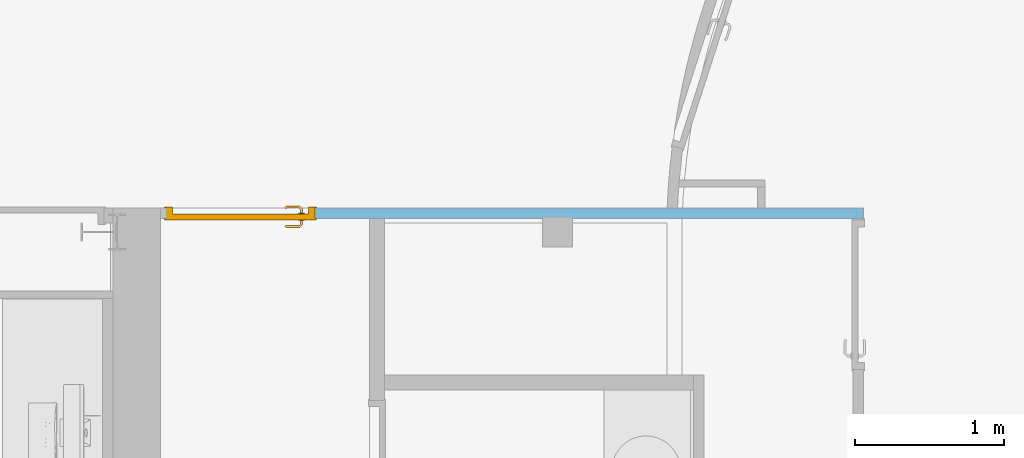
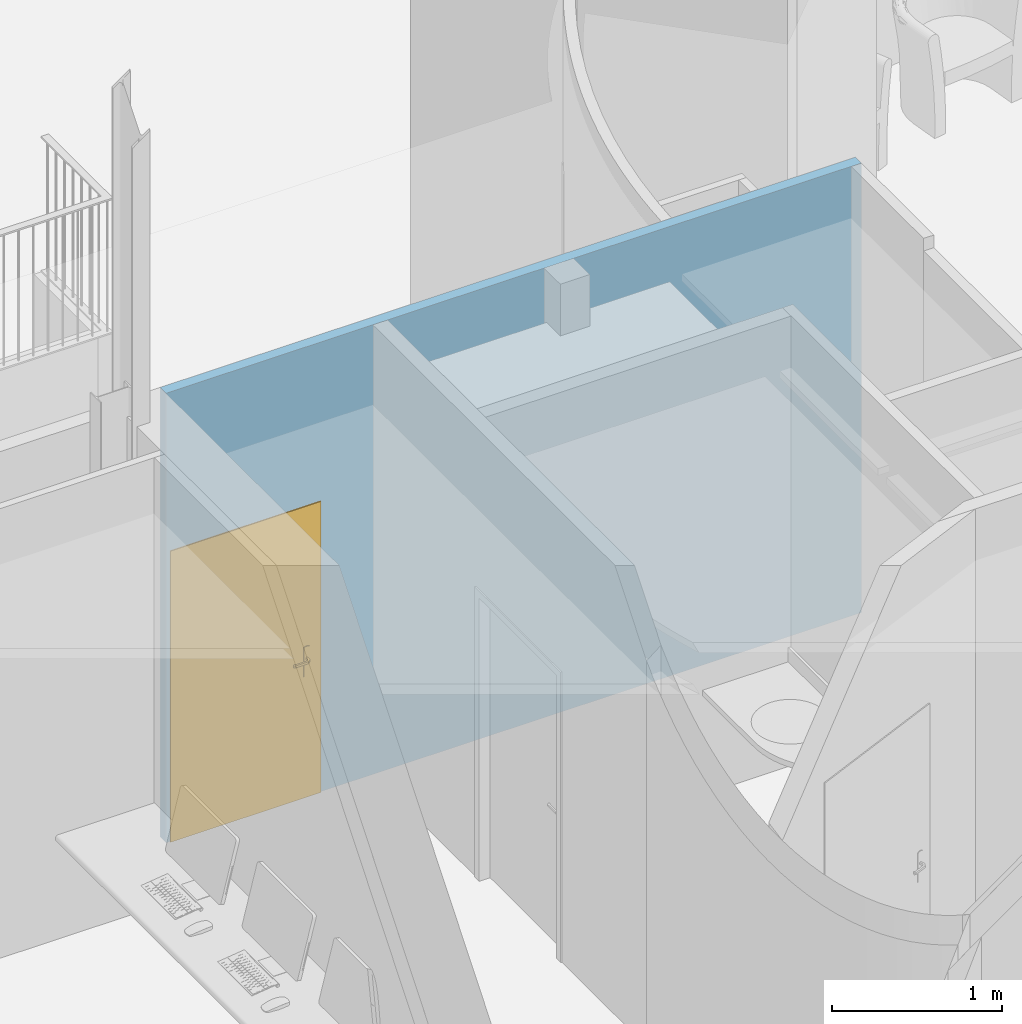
# One storey, part 86 of 137: 1 door, 1 opening, plus 1 element that does not belong to this part.
"""IFC2X3 building model written with IfcOpenShell, lengths in centimetres."""

from ifc_helpers import new_model, entity, si_unit, converted_unit, derived_unit, direction, frame, frame_2d, origin, place, context, subcontext, project, spatial, rectangle, extrude, faceted_brep, source, transform, mapped, material, material_list, layer, layer_set, layer_usage, type_object, type_shapes, element, fill, save


model = new_model("IFC2X3")

# Units and contexts
model_context = context("Model", 3, precision=0.001, world=origin(), true_north=direction((6.12303176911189e-17, 1.0)))
body_context = subcontext(model_context, "Body", "Model", "MODEL_VIEW")
ifc_project = project(units=[si_unit("LENGTHUNIT", "METRE", prefix="CENTI"), si_unit("AREAUNIT", "SQUARE_METRE"), si_unit("VOLUMEUNIT", "CUBIC_METRE"), converted_unit("PLANEANGLEUNIT", "DEGREE", entity("IfcRatioMeasure", 0.0174532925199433), si_unit("PLANEANGLEUNIT", "RADIAN"), dimensions=[0, 0, 0, 0, 0, 0, 0]), si_unit("MASSUNIT", "GRAM", prefix="KILO"), si_unit("TIMEUNIT", "SECOND"), si_unit("FREQUENCYUNIT", "HERTZ"), si_unit("THERMODYNAMICTEMPERATUREUNIT", "DEGREE_CELSIUS"), derived_unit("THERMALTRANSMITTANCEUNIT", [(si_unit("MASSUNIT", "GRAM", prefix="KILO"), 1), (si_unit("THERMODYNAMICTEMPERATUREUNIT", "KELVIN"), -1), (si_unit("TIMEUNIT", "SECOND"), -3)]), derived_unit("VOLUMETRICFLOWRATEUNIT", [(si_unit("LENGTHUNIT", "METRE"), 3), (si_unit("TIMEUNIT", "SECOND"), -1)]), si_unit("ELECTRICCURRENTUNIT", "AMPERE"), si_unit("ELECTRICVOLTAGEUNIT", "VOLT"), si_unit("POWERUNIT", "WATT"), si_unit("FORCEUNIT", "NEWTON", prefix="KILO"), si_unit("ILLUMINANCEUNIT", "LUX"), si_unit("LUMINOUSFLUXUNIT", "LUMEN"), si_unit("LUMINOUSINTENSITYUNIT", "CANDELA"), derived_unit("USERDEFINED", [(si_unit("MASSUNIT", "GRAM", prefix="KILO"), -1), (si_unit("LENGTHUNIT", "METRE"), -2), (si_unit("TIMEUNIT", "SECOND"), 3), (si_unit("LUMINOUSFLUXUNIT", "LUMEN"), 1)]), derived_unit("LINEARVELOCITYUNIT", [(si_unit("LENGTHUNIT", "METRE"), 1), (si_unit("TIMEUNIT", "SECOND"), -1)]), si_unit("PRESSUREUNIT", "PASCAL"), derived_unit("USERDEFINED", [(si_unit("LENGTHUNIT", "METRE"), -2), (si_unit("MASSUNIT", "GRAM", prefix="KILO"), 1), (si_unit("TIMEUNIT", "SECOND"), -2)])], contexts=[model_context])

# Site, building, storey
site_placement = place(None, frame((8.62739174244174, -249.285249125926, 0.0)))
site = spatial("IfcSite", under=ifc_project, at=site_placement, Name="Default", CompositionType="ELEMENT")
building_placement = place(site_placement, origin())
building = spatial("IfcBuilding", under=site, at=building_placement, CompositionType="ELEMENT")
storey_placement = place(building_placement, origin())
storey = spatial("IfcBuildingStorey", under=building, at=storey_placement, Name="RDC", CompositionType="ELEMENT", Elevation=-8.82465566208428e-11)

# Wall, opening, door
ifc_material_1 = material(Name="Plâtre EXISTANT")
ifc_layer = layer(ifc_material_1, 7.0)
ifc_layer_set = layer_set([ifc_layer], Name="Mur de base:PLA EXISTANT 7")
ifc_layer_usage = layer_usage(ifc_layer_set, "AXIS2", "NEGATIVE", 3.5)
wall_type = type_object("IfcWallType", Name="Mur de base:PLA EXISTANT 7", PredefinedType="STANDARD", material=ifc_layer_set)
wall_placement = place(storey_placement, frame((2194.90482780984, 774.499999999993, 0.0)))
wall = element("IfcWallStandardCase", 1, at=wall_placement, inside=storey, type_object=wall_type, material=ifc_layer_usage, Name="Mur de base:PLA EXISTANT 7", ObjectType="Mur de base:PLA EXISTANT 7", context=body_context, shape_type="SweptSolid", body=[
    extrude(rectangle(XDim=470.999999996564, YDim=6.99999999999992, at=frame_2d((235.499999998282, 0.0), x_axis=(-1.0, 0.0))), origin(), (0.0, 0.0, 1.0), 322.000000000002),
])
opening_placement = place(wall_placement, frame((103.499999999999, 3.49999999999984, 0.0)))
opening = element("IfcOpeningElement", 2, at=opening_placement, cuts=wall, Name="Simple(R)_bois_mu:93 x 204 cm:1", ObjectType="Opening", context=body_context, shape_type="SweptSolid", body=[
    extrude(rectangle(XDim=207.499999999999, YDim=99.9999999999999, at=frame_2d((103.749999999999, 50.0), x_axis=(1.0, 0.0))), frame((0.0, 0.0, 0.0), z_axis=(0.0, -1.0, 0.0), x_axis=(0.0, 0.0, 1.0)), (0.0, 0.0, 1.0), 7.0),
])
ifc_material_2 = material(Name="Porte - Poignée")
ifc_material_3 = material(Name="Porte - Cadre")
ifc_material_4 = material(Name="Porte - Panneau")
ifc_material_list_1 = material_list([ifc_material_2, ifc_material_3, ifc_material_4])
ifc_material_list_2 = material_list([ifc_material_2, ifc_material_3, ifc_material_4])
door_style = type_object("IfcDoorStyle", Name="93 x 204 cm", ConstructionType="NOTDEFINED", OperationType="SINGLE_SWING_LEFT", ParameterTakesPrecedence=False, Sizeable=False, material=ifc_material_list_2)
shared_shape = source(origin(), body_context, "Body", "Brep", [
    faceted_brep([(92.2025298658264, 3.69999999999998, 100.778044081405), (91.7974701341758, 3.69999999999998, 100.778044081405), (91.3999999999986, 3.69999999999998, 100.699999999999), (91.4000000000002, 3.69999999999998, 99.3000000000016), (91.7974701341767, 3.69999999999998, 99.2219559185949), (92.2025298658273, 3.69999999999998, 99.2219559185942), (92.6000000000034, 3.69999999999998, 99.2999999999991), (92.600000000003, 3.69999999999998, 100.699999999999), (91.3999999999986, 5.94852045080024, 100.699999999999), (91.3999999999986, 5.94852045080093, 99.3000000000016), (91.7974701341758, 6.1131579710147, 100.778044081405), (92.2025298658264, 6.2809392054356, 100.778044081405), (90.5838906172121, 7.89957845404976, 100.778044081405), (90.4161093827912, 7.49451872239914, 100.778044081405), (82.0793122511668, 7.49451872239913, 100.778044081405), (81.911531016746, 7.89957845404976, 100.778044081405), (81.1451046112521, 7.13315204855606, 100.778044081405), (81.4315250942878, 6.84673156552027, 100.778044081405), (92.600000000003, 6.44557672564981, 100.699999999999), (92.6000000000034, 6.44557672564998, 99.2999999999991), (92.2025298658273, 6.28093920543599, 99.2219559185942), (91.7974701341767, 6.11315797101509, 99.2219559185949), (90.4161093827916, 7.49451872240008, 99.2219559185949), (90.5838906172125, 7.8995784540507, 99.2219559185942), (81.9115310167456, 7.8995784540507, 99.2219559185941), (82.0793122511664, 7.49451872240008, 99.2219559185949), (81.4315250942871, 6.84673156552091, 99.2219559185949), (81.1451046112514, 7.13315204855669, 99.2219559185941), (90.2514718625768, 7.09704858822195, 100.699999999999), (90.2514718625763, 7.09704858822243, 99.3000000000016), (90.7485281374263, 8.29704858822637, 100.699999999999), (90.7485281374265, 8.29704858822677, 99.2999999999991), (86.247710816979, 7.09704858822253, 100.699999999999), (82.2439497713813, 7.09704858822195, 100.699999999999), (82.2439497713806, 7.09704858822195, 99.3000000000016), (86.247710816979, 7.09704858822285, 99.3000000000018), (86.2477108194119, 7.71249275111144, 100.787811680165), (85.7399422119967, 8.29704858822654, 100.699999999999), (81.7468934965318, 8.29704858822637, 100.699999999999), (86.7554791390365, 8.29704858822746, 99.2999999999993), (81.7468934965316, 8.29704858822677, 99.2999999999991), (86.2477107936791, 7.71249274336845, 99.2121883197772), (80.8640507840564, 7.41420587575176, 100.699999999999), (80.8640507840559, 7.41420587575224, 99.2999999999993), (81.7125789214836, 6.5656777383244, 99.3000000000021), (81.7125789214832, 6.56567773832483, 100.699999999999)], [[[0, 1, 2, 3, 4, 5, 6, 7]], [[8, 9, 3, 2]], [[1, 10, 8, 2]], [[1, 0, 11, 12, 13, 10]], [[14, 15, 16, 17]], [[7, 18, 11, 0]], [[18, 7, 6, 19]], [[6, 5, 20, 19]], [[5, 4, 21, 22, 23, 20]], [[24, 25, 26, 27]], [[4, 3, 9, 21]], [[28, 29, 9, 8]], [[8, 10, 13, 28]], [[18, 30, 12, 11]], [[31, 30, 18, 19]], [[19, 20, 23, 31]], [[21, 9, 29, 22]], [[29, 28, 32, 33, 34, 35]], [[36, 32, 13]], [[37, 38, 15]], [[37, 12, 30]], [[36, 12, 37]], [[14, 32, 36]], [[36, 15, 14]], [[28, 13, 32]], [[32, 14, 33]], [[12, 36, 13]], [[15, 36, 37]], [[30, 31, 39, 40, 38, 37]], [[23, 41, 39]], [[24, 39, 41]], [[39, 31, 23]], [[39, 24, 40]], [[22, 35, 41]], [[41, 23, 22]], [[41, 35, 25]], [[35, 22, 29]], [[34, 25, 35]], [[24, 41, 25]], [[17, 16, 42, 43, 27, 26, 44, 45]], [[45, 44, 34, 33]], [[33, 14, 17, 45]], [[15, 38, 42, 16]], [[43, 42, 38, 40]], [[24, 27, 43, 40]], [[34, 44, 26, 25]]]),
    faceted_brep([(91.7974701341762, -1.30000000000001, 100.778044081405), (92.2025298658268, -1.30000000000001, 100.778044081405), (92.6000000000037, -1.30000000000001, 100.699999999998), (92.6000000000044, -1.30000000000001, 99.2999999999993), (92.2025298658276, -1.30000000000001, 99.2219559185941), (91.797470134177, -1.30000000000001, 99.2219559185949), (91.3999999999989, -1.30000000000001, 99.3000000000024), (91.3999999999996, -1.30000000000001, 100.699999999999), (92.2025298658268, -3.90045754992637, 100.778044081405), (92.6000000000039, -4.06509507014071, 100.699999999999), (91.7974701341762, -3.73267631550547, 100.778044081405), (90.4298602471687, -5.10028620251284, 100.778044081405), (90.5976414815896, -5.50534593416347, 100.778044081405), (81.9142453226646, -5.50534593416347, 100.778044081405), (82.0820265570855, -5.10028620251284, 100.778044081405), (81.4342394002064, -4.4524990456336, 100.778044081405), (81.1478189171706, -4.73891952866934, 100.778044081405), (91.3999999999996, -3.56803879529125, 100.699999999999), (91.3999999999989, -3.56803879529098, 99.3000000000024), (91.797470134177, -3.7326763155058, 99.2219559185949), (92.2025298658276, -3.9004575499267, 99.2219559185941), (90.5976414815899, -5.50534593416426, 99.2219559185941), (90.429860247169, -5.10028620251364, 99.2219559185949), (82.0820265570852, -5.10028620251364, 99.2219559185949), (81.9142453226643, -5.50534593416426, 99.2219559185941), (81.14781891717, -4.73891952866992, 99.2219559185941), (81.4342394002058, -4.45249904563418, 99.2219559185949), (92.6000000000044, -4.06509507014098, 99.2999999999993), (90.762279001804, -5.90281606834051, 100.699999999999), (90.2652227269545, -4.70281606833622, 100.699999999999), (90.2652227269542, -4.70281606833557, 99.3000000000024), (90.7622790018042, -5.90281606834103, 99.2999999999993), (86.2559433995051, -5.31828027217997, 100.787811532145), (86.769230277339, -5.90281606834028, 100.699999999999), (81.7496078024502, -5.90281606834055, 100.699999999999), (86.255943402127, -4.70281606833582, 100.699999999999), (82.2466640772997, -4.70281606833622, 100.699999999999), (86.2559436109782, -4.70281606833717, 99.3000000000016), (82.2466640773, -4.70281606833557, 99.3000000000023), (86.2559434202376, -5.31828027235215, 99.2121884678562), (85.7426572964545, -5.90281606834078, 99.2999999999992), (81.74960780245, -5.90281606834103, 99.2999999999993), (81.7152932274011, -4.17144521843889, 99.3000000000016), (80.8667650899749, -5.01997335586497, 99.2999999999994), (80.8667650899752, -5.01997335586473, 100.699999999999), (81.7152932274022, -4.17144521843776, 100.699999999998)], [[[0, 1, 2, 3, 4, 5, 6, 7]], [[2, 1, 8, 9]], [[1, 0, 10, 11, 12, 8]], [[13, 14, 15, 16]], [[0, 7, 17, 10]], [[18, 17, 7, 6]], [[5, 19, 18, 6]], [[5, 4, 20, 21, 22, 19]], [[23, 24, 25, 26]], [[3, 27, 20, 4]], [[9, 27, 3, 2]], [[9, 8, 12, 28]], [[10, 17, 29, 11]], [[30, 29, 17, 18]], [[18, 19, 22, 30]], [[20, 27, 31, 21]], [[28, 31, 27, 9]], [[12, 32, 33]], [[13, 33, 32]], [[33, 28, 12]], [[33, 13, 34]], [[11, 35, 32]], [[32, 12, 11]], [[32, 35, 14]], [[35, 11, 29]], [[36, 14, 35]], [[13, 32, 14]], [[29, 30, 37, 38, 36, 35]], [[39, 37, 22]], [[40, 41, 24]], [[40, 21, 31]], [[39, 21, 40]], [[23, 37, 39]], [[39, 24, 23]], [[30, 22, 37]], [[37, 23, 38]], [[21, 39, 22]], [[24, 39, 40]], [[31, 28, 33, 34, 41, 40]], [[42, 26, 25, 43, 44, 16, 15, 45]], [[13, 16, 44, 34]], [[36, 45, 15, 14]], [[42, 45, 36, 38]], [[38, 23, 26, 42]], [[24, 41, 43, 25]], [[44, 43, 41, 34]]]),
    faceted_brep([(92.0, 3.19999999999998, 86.4641016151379), (93.0352761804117, 3.19999999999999, 86.6003983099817), (94.0, 3.19999999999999, 87.0), (94.0, 3.19999999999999, 108.0), (93.0352761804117, 3.19999999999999, 108.399601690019), (92.0, 3.19999999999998, 108.535898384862), (90.9647238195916, 3.19999999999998, 108.399601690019), (90.0, 3.19999999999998, 108.0), (90.0, 3.19999999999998, 87.0), (90.9647238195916, 3.19999999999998, 86.6003983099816), (92.0, 3.69999999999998, 108.535898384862), (93.0352761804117, 3.69999999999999, 108.399601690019), (94.0, 3.69999999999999, 108.0), (94.0, 3.69999999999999, 87.0), (93.0352761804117, 3.69999999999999, 86.6003983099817), (92.0, 3.69999999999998, 86.4641016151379), (90.9647238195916, 3.69999999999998, 86.6003983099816), (90.0, 3.69999999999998, 87.0), (90.0, 3.69999999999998, 108.0), (90.9647238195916, 3.69999999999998, 108.399601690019)], [[[0, 1, 2, 3, 4, 5, 6, 7, 8, 9]], [[10, 11, 12, 13, 14, 15, 16, 17, 18, 19]], [[6, 19, 18, 7]], [[5, 10, 19, 6]], [[4, 11, 10, 5]], [[4, 3, 12, 11]], [[12, 3, 2, 13]], [[1, 14, 13, 2]], [[0, 15, 14, 1]], [[9, 16, 15, 0]], [[9, 8, 17, 16]], [[17, 8, 7, 18]]]),
    faceted_brep([(92.0, -1.30000000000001, 86.4641016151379), (93.0352761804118, -1.30000000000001, 86.6003983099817), (94.0, -1.30000000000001, 87.0), (94.0, -1.30000000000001, 108.0), (93.0352761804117, -1.30000000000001, 108.399601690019), (92.0, -1.30000000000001, 108.535898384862), (90.9647238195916, -1.30000000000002, 108.399601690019), (90.0, -1.30000000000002, 108.0), (90.0, -1.30000000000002, 87.0), (90.9647238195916, -1.30000000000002, 86.6003983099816), (94.0, -0.800000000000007, 108.0), (94.0, -0.800000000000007, 87.0), (93.0352761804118, -0.80000000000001, 86.6003983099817), (92.0, -0.800000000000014, 86.4641016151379), (90.9647238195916, -0.800000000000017, 86.6003983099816), (90.0, -0.800000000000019, 87.0), (90.0, -0.800000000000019, 108.0), (90.9647238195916, -0.800000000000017, 108.399601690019), (92.0, -0.800000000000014, 108.535898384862), (93.0352761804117, -0.80000000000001, 108.399601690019)], [[[0, 1, 2, 3, 4, 5, 6, 7, 8, 9]], [[10, 11, 12, 13, 14, 15, 16, 17, 18, 19]], [[1, 12, 11, 2]], [[0, 13, 12, 1]], [[9, 14, 13, 0]], [[9, 8, 15, 14]], [[15, 8, 7, 16]], [[6, 17, 16, 7]], [[5, 18, 17, 6]], [[4, 19, 18, 5]], [[4, 3, 10, 19]], [[10, 3, 2, 11]]]),
    faceted_brep([(101.0, 0.0, 0.0), (102.0, 0.0, 0.0), (102.0, -0.799999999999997, 0.0), (97.5000000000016, -0.799999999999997, 0.0), (97.5000000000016, 3.2, 0.0), (96.5000000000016, 3.2, 0.0), (96.5000000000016, 7.80000000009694, 0.0), (102.0, 7.80000000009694, 0.0), (102.0, 7.0, 0.0), (101.0, 7.0, 0.0), (101.0, 7.0, 207.499999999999), (101.0, 0.0, 207.499999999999), (102.0, 7.0, 208.499999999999), (0.0, 7.0, 208.499999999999), (0.0, 7.0, 0.0), (1.0, 7.0, 0.0), (1.0, 7.0, 207.499999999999), (102.0, 7.80000000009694, 208.499999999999), (96.5000000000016, 7.80000000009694, 203.0), (5.50000000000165, 7.80000000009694, 203.0), (5.50000000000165, 7.80000000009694, 0.0), (0.0, 7.80000000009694, 0.0), (0.0, 7.80000000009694, 208.499999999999), (96.5000000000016, 3.2, 203.0), (97.5000000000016, 3.2, 204.0), (4.50000000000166, 3.2, 204.0), (4.50000000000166, 3.2, 0.0), (5.50000000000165, 3.2, 0.0), (5.50000000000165, 3.2, 203.0), (97.5000000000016, -0.799999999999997, 204.0), (102.0, -0.799999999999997, 208.499999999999), (0.0, -0.799999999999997, 208.499999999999), (0.0, -0.799999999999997, 0.0), (4.50000000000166, -0.799999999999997, 0.0), (4.50000000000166, -0.799999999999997, 204.0), (102.0, 0.0, 208.499999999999), (1.0, 0.0, 207.499999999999), (1.0, 0.0, 0.0), (0.0, 0.0, 0.0), (0.0, 0.0, 208.499999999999)], [[[0, 1, 2, 3, 4, 5, 6, 7, 8, 9]], [[9, 10, 11, 0]], [[8, 12, 13, 14, 15, 16, 10, 9]], [[7, 17, 12, 8]], [[6, 18, 19, 20, 21, 22, 17, 7]], [[5, 23, 18, 6]], [[4, 24, 25, 26, 27, 28, 23, 5]], [[3, 29, 24, 4]], [[2, 30, 31, 32, 33, 34, 29, 3]], [[1, 35, 30, 2]], [[0, 11, 36, 37, 38, 39, 35, 1]], [[16, 15, 37, 36]], [[37, 15, 14, 21, 20, 27, 26, 33, 32, 38]], [[22, 21, 14, 13]], [[28, 27, 20, 19]], [[34, 33, 26, 25]], [[39, 38, 32, 31]], [[10, 16, 36, 11]], [[17, 22, 13, 12]], [[23, 28, 19, 18]], [[29, 34, 25, 24]], [[35, 39, 31, 30]]]),
    faceted_brep([(97.5000000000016, -0.799999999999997, 204.0), (4.50000000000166, -0.799999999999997, 204.0), (4.50000000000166, -0.799999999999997, 0.0), (97.5000000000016, -0.799999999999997, 0.0), (97.5000000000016, 3.2, 204.0), (97.5000000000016, 3.2, 0.0), (4.50000000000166, 3.2, 0.0), (4.50000000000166, 3.2, 204.0)], [[[0, 1, 2, 3]], [[4, 5, 6, 7]], [[3, 5, 4, 0]], [[2, 6, 5, 3]], [[1, 7, 6, 2]], [[0, 4, 7, 1]]]),
])
type_shapes(door_style, [shared_shape])
door_placement = place(opening_placement, frame((-101.0, -7.0, 0.0)))
door = element("IfcDoor", 3, at=door_placement, inside=storey, type_object=door_style, material=ifc_material_list_1, Name="Simple(R)_bois_mu:93 x 204 cm", ObjectType="93 x 204 cm", OverallHeight=207.499999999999, OverallWidth=99.9999999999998, context=body_context, shape_type="MappedRepresentation", body=[
    mapped(shared_shape, transform((0.0, 0.0, 0.0), scale=1.0)),
])
fill(opening, door)

save(model, "model.ifc")
